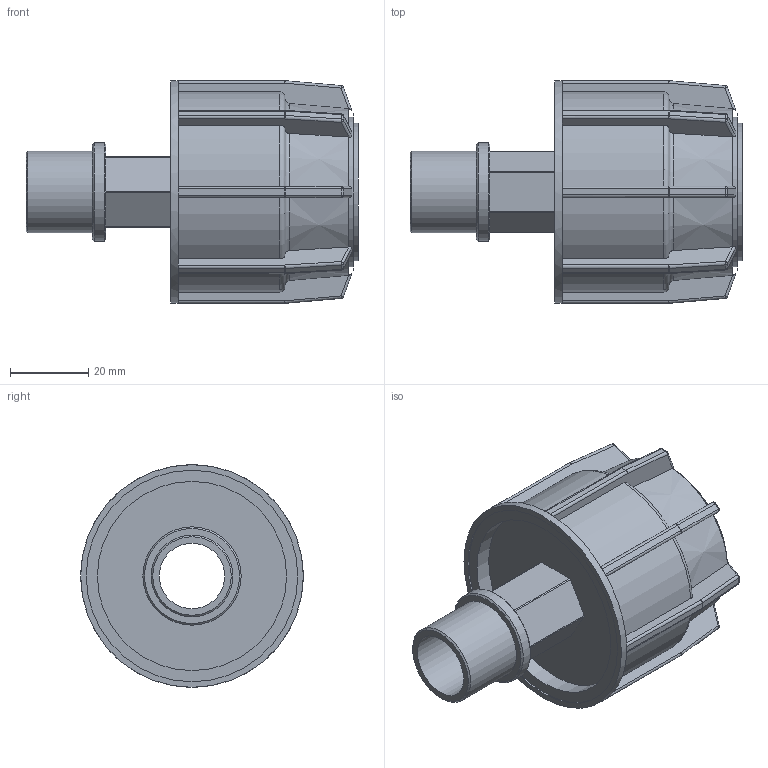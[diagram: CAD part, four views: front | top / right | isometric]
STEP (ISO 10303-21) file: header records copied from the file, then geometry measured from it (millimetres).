
FILE_DESCRIPTION(/* description */ ('PLASSON IRRIFIT ADAPTOR 32-3/4"M'),/* implementation_level */ '2;1');
FILE_NAME(/* name */ 'C:\Dropbox\KIMPROJECTS-Inventor\99-16-3568-Processing\Silver+MF ISRAEL\040207\040207032007.ipt.stp',/* time_stamp */ '2018-04-09T12:59:41+03:00',/* author */ ('KIM'),/* organization */ (''),/* preprocessor_version */ 'ST-DEVELOPER v15.6',/* originating_system */ 'Autodesk Inventor 2015',/* authorisation */ '');
FILE_SCHEMA (('AUTOMOTIVE_DESIGN { 1 0 10303 214 3 1 1 }'));
Length unit declared in the file: millimetre
Products named in the file (1): 040207032007
Bounding box: 85 x 57 x 57 mm (x, y, z)
Volume: 56466 mm3; surface area: 24477 mm2
Topology: 1 solids, 1 shells, 283 faces, 668 edges, 388 vertices
Faces by surface type: plane 142, cylinder 81, sphere 32, torus 17, cone 11
Full cylindrical faces by diameter (mm): 16.764 x1, 20.955 x1, 25.146 x1, 32 x1, 35.2 x1, 38.4 x1, 48.45 x1, 54.15 x1, 57 x1
Entity records: 8330 total; most frequent: CARTESIAN_POINT 2112, DIRECTION 1300, ORIENTED_EDGE 1280, EDGE_CURVE 640, AXIS2_PLACEMENT_3D 512, VERTEX_POINT 380, EDGE_LOOP 306, FACE_OUTER_BOUND 283
